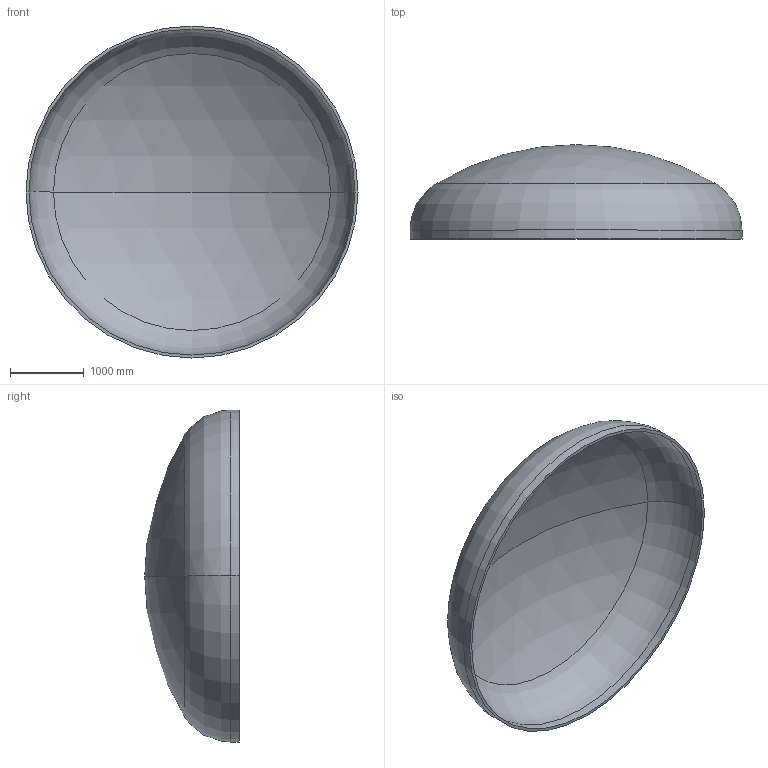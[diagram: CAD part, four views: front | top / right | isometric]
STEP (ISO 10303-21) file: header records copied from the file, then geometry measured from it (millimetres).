
FILE_DESCRIPTION (( 'STEP AP203' ), '1' );
FILE_NAME ('DIN 28013 Korbbogenform_-_Boden DIN 28013 - 4500 x 120 - I - s=40.step', '2016-07-01T23:24:15', ( '' ), ( '' ), 'SwSTEP 2.0', 'SolidWorks 2013', '' );
FILE_SCHEMA (( 'CONFIG_CONTROL_DESIGN' ));
Length unit declared in the file: millimetre
Products named in the file (1): DIN 28013 Korbbogenform_-_Boden DIN 28013 - 4500 x 120 - I - s=40
Bounding box: 4500 x 1281.33 x 4500 mm (x, y, z)
Volume: 938542709.2 mm3; surface area: 47490929.1 mm2
Topology: 1 solids, 1 shells, 13 faces, 24 edges, 14 vertices
Faces by surface type: torus 4, cylinder 4, sphere 4, plane 1
Entity records: 407 total; most frequent: DIRECTION 72, CARTESIAN_POINT 52, ORIENTED_EDGE 48, AXIS2_PLACEMENT_3D 34, EDGE_CURVE 24, CIRCLE 20, VERTEX_POINT 14, EDGE_LOOP 14
